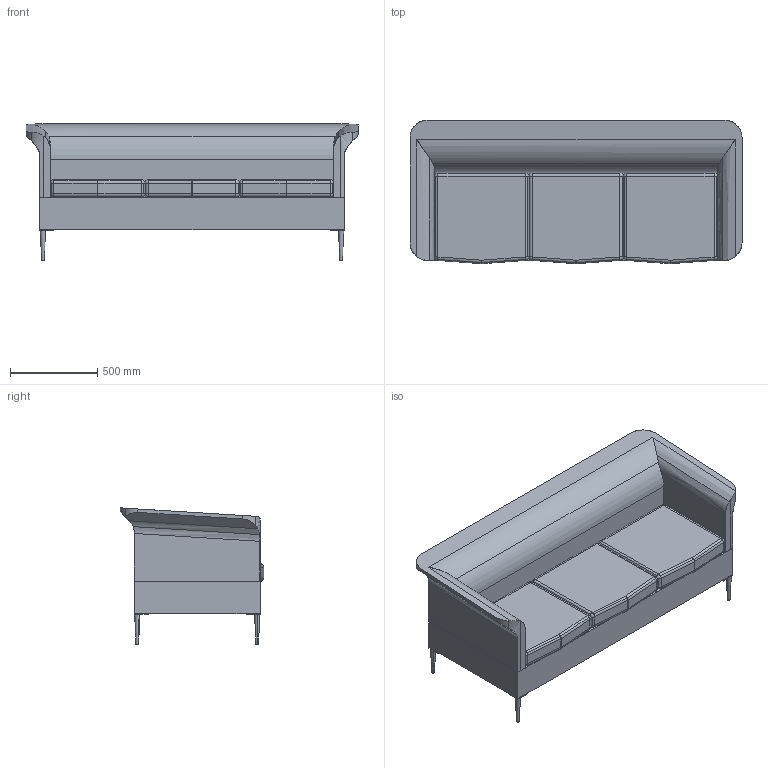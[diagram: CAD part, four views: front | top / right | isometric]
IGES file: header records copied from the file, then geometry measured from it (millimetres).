
Start section: IMSI TurboCAD v14.0
Global section: author: NULL; organization: NULL; date: 20121019.125312; units: millimetre
Bounding box: 1900 x 819.95 x 780 mm (x, y, z)
Surface area: 9160216.3 mm2 (no closed solid volume)
Topology: 0 solids, 0 shells, 223 faces, 1036 edges, 1006 vertices
Faces by surface type: revolution 148, extrusion 75
